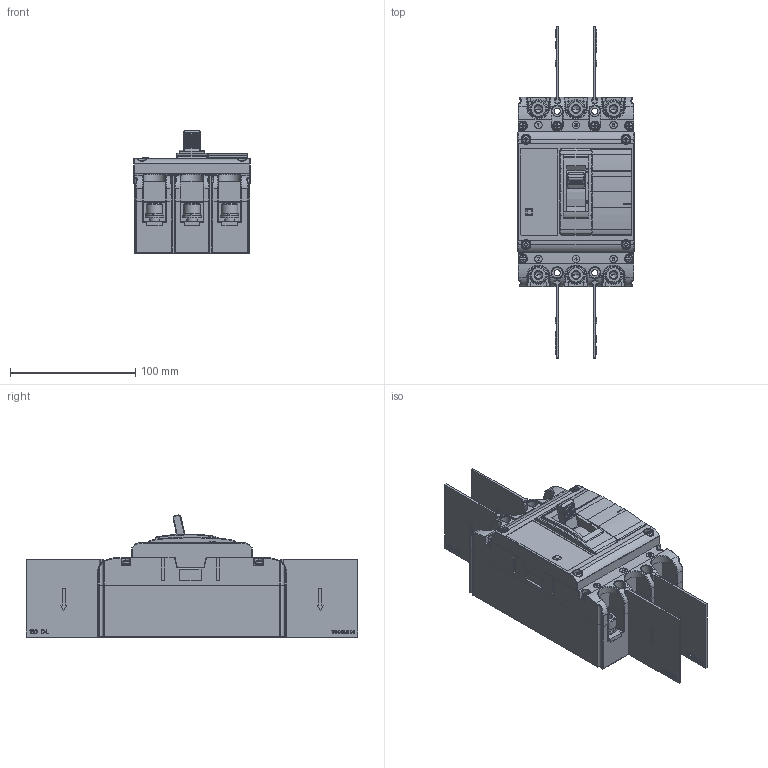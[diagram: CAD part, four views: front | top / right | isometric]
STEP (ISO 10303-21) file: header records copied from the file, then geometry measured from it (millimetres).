
FILE_DESCRIPTION (( 'STEP AP214' ), '1' );
FILE_NAME ('TGM1N-160L-3P.STEP', '2025-12-18T09:20:29', ( '' ), ( '' ), 'SwSTEP 2.0', 'SolidWorks 2024', '' );
FILE_SCHEMA (( 'AUTOMOTIVE_DESIGN' ));
Length unit declared in the file: millimetre
Products named in the file (24): 5TZD_558_6021_ASM_1.stp; 5TZD_315_6010_ASM_1.stp; 8TZD_315_6031_1.stp; 5TZD_558_6019_ASM_1.stp; 5TZD_552_6014_ASM_1.stp; 8TZD_253_6010_1.stp; 8TZD_315_6039_1.stp; 8TZD_552_6009_1.stp; 8TZD_253_6011_1.stp; 8TZD_742_6076_1.stp; 5TZD_585_6007_ASM_1.stp; TGM1N-160L-3P.stp; GB_T9074_4-M3X6_1.stp; Q_TZJ0301_1-M8X16_1.stp; 5TZD_024_6021_ASM_1.stp; Q_TZJ0304_1-M3X25_1.stp; 5TZD_558_6025_ASM_1.stp; 5TZD_558_6020_ASM_1.stp; 8TZD_585_6029_1.stp; 8TZD_742_6058_1.stp; 8TZD_742_6062_1.stp; 8TZD_024_6021_1.stp; TGM1N-160L-3P; 8TZD_750_6007_1.stp
Assembly tree (47 placements, depth 8):
  TGM1N-160L-3P
    TGM1N-160L-3P.stp
      5TZD_024_6021_ASM_1.stp
        8TZD_024_6021_1.stp
      5TZD_552_6014_ASM_1.stp  x3
        8TZD_552_6009_1.stp
      5TZD_558_6025_ASM_1.stp
        5TZD_558_6021_ASM_1.stp  x3
          5TZD_558_6020_ASM_1.stp
            5TZD_558_6019_ASM_1.stp
              5TZD_585_6007_ASM_1.stp
                8TZD_585_6029_1.stp
      5TZD_315_6010_ASM_1.stp
        8TZD_315_6031_1.stp
      8TZD_253_6010_1.stp
      8TZD_742_6062_1.stp  x3
      8TZD_742_6058_1.stp  x3
      8TZD_315_6039_1.stp
      8TZD_253_6011_1.stp
      Q_TZJ0304_1-M3X25_1.stp  x6
      GB_T9074_4-M3X6_1.stp  x4
      Q_TZJ0301_1-M8X16_1.stp  x6
      8TZD_742_6076_1.stp  x4
      8TZD_750_6007_1.stp
Bounding box: 93 x 265 x 97.49 mm (x, y, z)
Volume: 864917.3 mm3; surface area: 246467.5 mm2
Topology: 12 solids, 81 shells, 5079 faces, 13524 edges, 8799 vertices
Faces by surface type: plane 3742, cylinder 987, torus 123, cone 102, bspline 72, sphere 53
Entity records: 118305 total; most frequent: CARTESIAN_POINT 30372, ORIENTED_EDGE 18532, DIRECTION 17468, EDGE_CURVE 9280, LINE 7172, VECTOR 7172, VERTEX_POINT 6038, AXIS2_PLACEMENT_3D 5148
